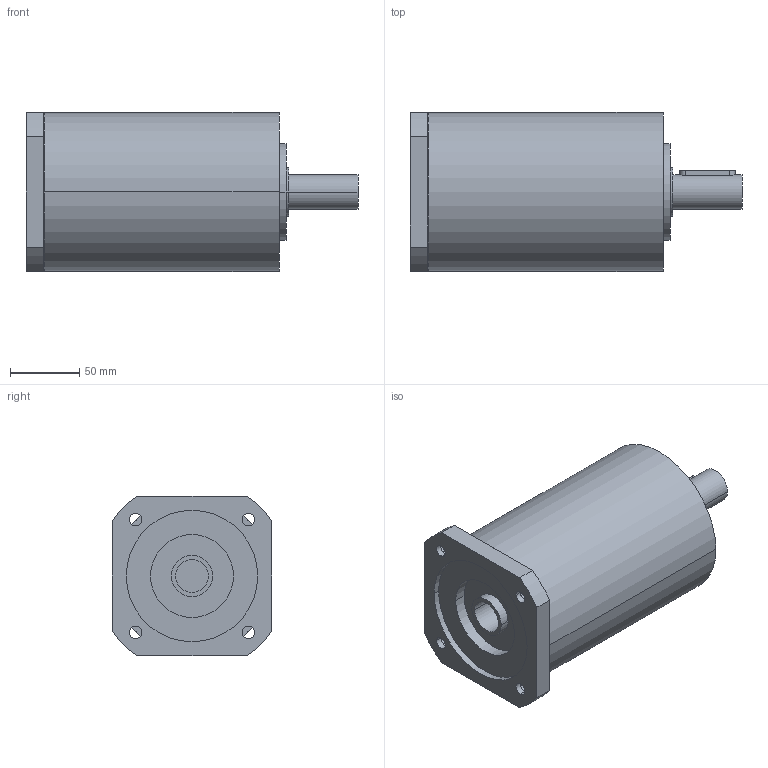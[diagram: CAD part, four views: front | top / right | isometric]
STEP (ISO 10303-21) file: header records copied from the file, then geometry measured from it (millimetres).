
FILE_DESCRIPTION(('CoCreate Modeling STEP Export'),'2;1');
FILE_NAME('GPR125_ig-9-12-16-20-28-35_25_B14_24_P06.stp','2014-08-26T14:11:17',(''),(''),'CoCreate Modeling STEP processor for AP214 (Solid Model)','CoCreate Modeling 16.00C 25-Feb-2009 (C) Parametric Technology GmbH','');
FILE_SCHEMA(('AUTOMOTIVE_DESIGN { 1 0 10303 214 1 1 1 1 }'));
Length unit declared in the file: millimetre
Products named in the file (2): GPR125_ig-9-12-16-20-28-35_25_B14_24_P06
Assembly tree (1 placements, depth 2):
  GPR125_ig-9-12-16-20-28-35_25_B14_24_P06
    GPR125_ig-9-12-16-20-28-35_25_B14_24_P06
Bounding box: 240 x 115 x 115 mm (x, y, z)
Volume: 1888655.4 mm3; surface area: 110668.6 mm2
Topology: 1 solids, 1 shells, 81 faces, 223 edges, 155 vertices
Faces by surface type: cylinder 48, plane 29, cone 4
Entity records: 2226 total; most frequent: ORIENTED_EDGE 442, CARTESIAN_POINT 408, DIRECTION 300, EDGE_CURVE 221, VERTEX_POINT 155, AXIS2_PLACEMENT_3D 115, EDGE_LOOP 102, FACE_OUTER_BOUND 81
